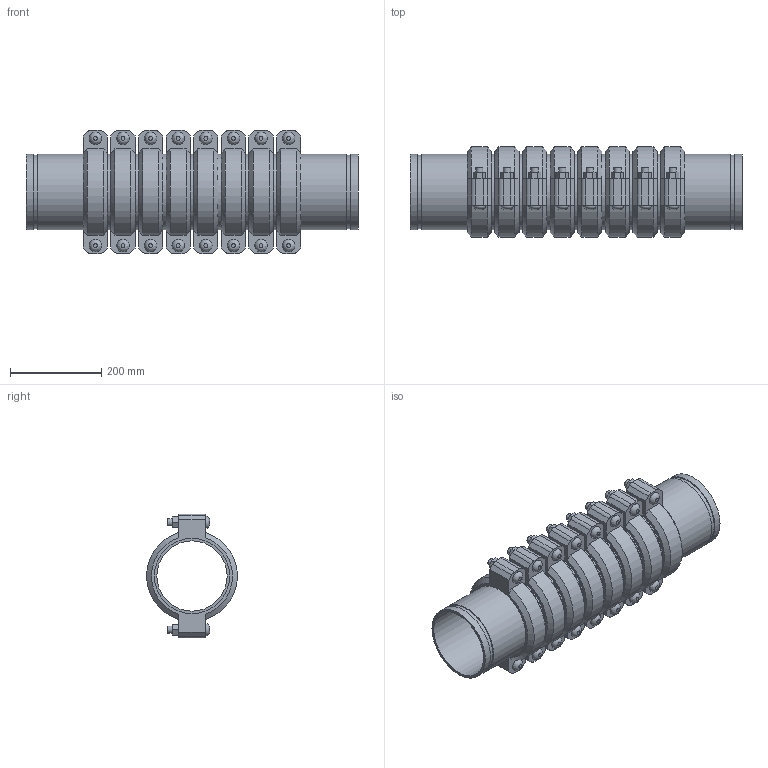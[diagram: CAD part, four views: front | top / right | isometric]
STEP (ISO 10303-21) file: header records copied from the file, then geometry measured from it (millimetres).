
FILE_DESCRIPTION(/* description */ ('VIC EXPANSION JOINT 8 COUPLINGS COMPRESSED STYLE 155 (OGS)','CAx-IF Rec.Pracs.---Representation and Presentation of Product Manufacturing Information (PMI)---4.0---2014-10-13'),/* implementation_level */ '2;1');
FILE_NAME(/* name */ 'C:\Users\kkamble\AppData\Roaming\Autodesk\ApplicationPlugins\Victaulic.Temp\A709\Victaulic_IPS_Expansion Joint_Compressed_8 Couplings_Style 155 (OGS)_06.0 (165.1) (150).stp',/* time_stamp */ '2021-06-27T00:36:34+02:00',/* author */ ('kkamble'),/* organization */ ('Victaulic'),/* preprocessor_version */ 'ST-DEVELOPER v17.2',/* originating_system */ 'Autodesk Inventor 2019',/* authorisation */ '');
FILE_SCHEMA (('AP242_MANAGED_MODEL_BASED_3D_ENGINEERING_MIM_LF { 1 0 10303 442 1 1 4 }'));
Length unit declared in the file: inch
Products named in the file (4): 155-06.0 (165.1); Nipple-06.0 (165.1); Nipple-06.0 (165.1)_1; 075_8_Coup-06.0 (165.1)
Assembly tree (17 placements, depth 2):
  155-06.0 (165.1)
    Nipple-06.0 (165.1)  x2
    Nipple-06.0 (165.1)_1  x7
    075_8_Coup-06.0 (165.1)  x8
Bounding box: 727.2 x 198.42 x 270.76 mm (x, y, z)
Volume: 7441264.8 mm3; surface area: 1683125.7 mm2
Topology: 17 solids, 33 shells, 564 faces, 1334 edges, 936 vertices
Faces by surface type: plane 342, cylinder 174, cone 32, bspline 16
Full cylindrical faces by diameter (mm): 15.875 x32, 17.424 x16, 153.975 x9, 158.75 x8, 160.782 x18, 165.1 x43
Entity records: 2858 total; most frequent: CARTESIAN_POINT 501, DIRECTION 477, ORIENTED_EDGE 386, EDGE_CURVE 193, AXIS2_PLACEMENT_3D 192, VERTEX_POINT 138, EDGE_LOOP 107, LINE 93
